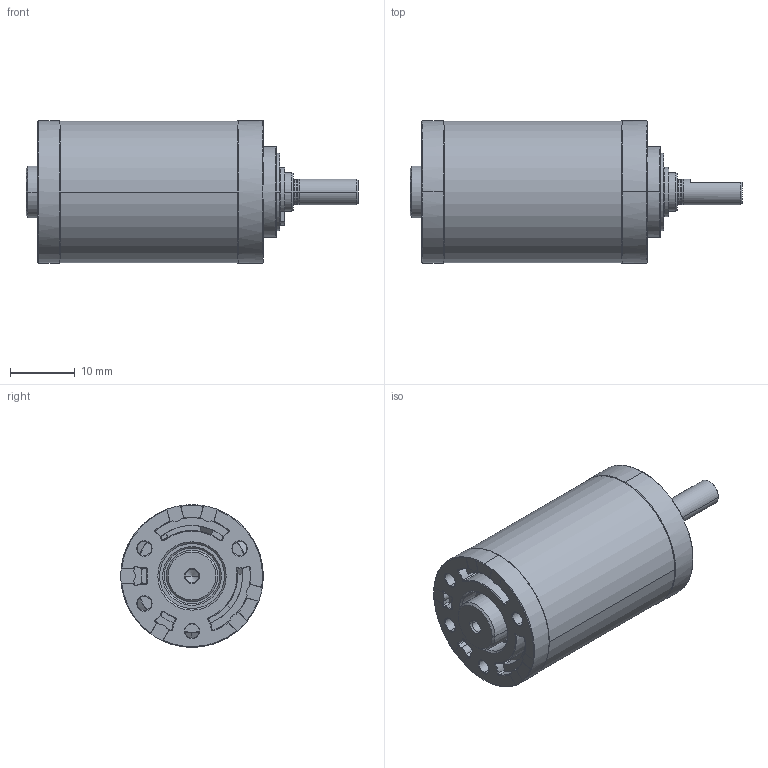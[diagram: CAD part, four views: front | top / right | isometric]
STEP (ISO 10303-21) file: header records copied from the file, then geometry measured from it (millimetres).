
FILE_DESCRIPTION((''),'2;1');
FILE_NAME('IMS22_ECO_MAX_2_STAGE_ASM','2023-07-27T13:27:30',('mhummel'),(''),'CREO PARAMETRIC BY PTC INC, 2020184','CREO PARAMETRIC BY PTC INC, 2020184','');
FILE_SCHEMA(('AUTOMOTIVE_DESIGN { 1 0 10303 214 1 1 1 1 }'));
Length unit declared in the file: millimetre
Products named in the file (12): IMS22_ECO_MAX_BEARING_FLANGE; IMS22_ECO_MAX_SINTERED_BEARING; IMS22_ECO_MAX_RING_GEAR_2_STAGE; IMS22_ECO_MAX_MOTOR_FLANGE; IMS22_ECO_MAX_SHAFT_RAW_AF0; IMS22_ECO_MAX_SHAFT_ASM; IMS22_ECO_MAX_SHIM_RING; IMS22_ECO_MAX_RETAINING_RING_A; IMS22_ECO_MAX_THRUST_WASHER; IMS22_ECO_MAX_MO_PINION_LONG; IMS22_ECO_MAX_MOT_PINION_SHORT; IMS22_ECO_MAX_2_STAGE_ASM
Assembly tree (12 placements, depth 3):
  IMS22_ECO_MAX_2_STAGE_ASM
    IMS22_ECO_MAX_BEARING_FLANGE
    IMS22_ECO_MAX_SINTERED_BEARING  x2
    IMS22_ECO_MAX_RING_GEAR_2_STAGE
    IMS22_ECO_MAX_MOTOR_FLANGE
    IMS22_ECO_MAX_SHAFT_ASM
      IMS22_ECO_MAX_SHAFT_RAW_AF0
    IMS22_ECO_MAX_SHIM_RING
    IMS22_ECO_MAX_RETAINING_RING_A
    IMS22_ECO_MAX_THRUST_WASHER
    IMS22_ECO_MAX_MO_PINION_LONG
    IMS22_ECO_MAX_MOT_PINION_SHORT
Bounding box: 51.25 x 22 x 22 mm (x, y, z)
Volume: 7765.5 mm3; surface area: 10288 mm2
Topology: 11 solids, 11 shells, 883 faces, 2113 edges, 1262 vertices
Faces by surface type: cylinder 274, torus 253, plane 175, bspline 90, cone 67, sphere 24
Entity records: 36737 total; most frequent: CARTESIAN_POINT 9849, DIRECTION 4514, ORIENTED_EDGE 4138, PRESENTATION_STYLE_ASSIGNMENT 2085, STYLED_ITEM 2085, CURVE_STYLE 2069, EDGE_CURVE 2069, AXIS2_PLACEMENT_3D 2025
